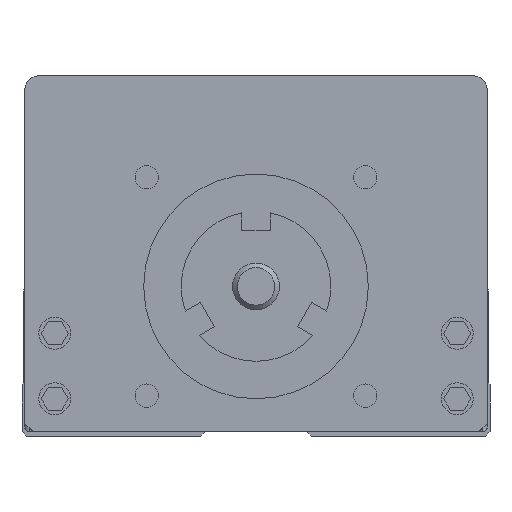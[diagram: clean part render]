
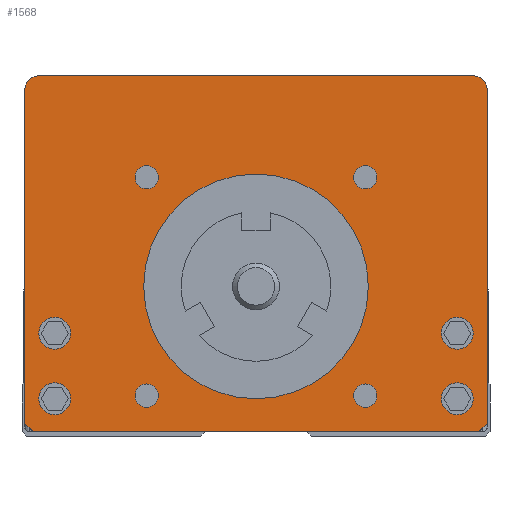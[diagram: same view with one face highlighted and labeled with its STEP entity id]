
A CAD part, front view. The second image highlights one B-rep face of the part: STEP entity #1568.
In plain terms, the highlighted planar face has unit normal (0, -1, 0).
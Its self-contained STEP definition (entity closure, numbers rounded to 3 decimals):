
#1568=ADVANCED_FACE('',(#4197,#4198,#4199,#4200,#4201,#4202,#4203,#4204,
#4205,#4206),#2045,.F.);
#2045=PLANE('',#11495);
#2415=LINE('',#15782,#3305);
#2452=LINE('',#15968,#3342);
#2466=LINE('',#16004,#3356);
#2642=LINE('',#17039,#3534);
#2651=LINE('',#17064,#3543);
#2652=LINE('',#17066,#3544);
#3305=VECTOR('',#12610,1.);
#3342=VECTOR('',#12801,1.);
#3356=VECTOR('',#12829,1.);
#3534=VECTOR('',#13567,1.);
#3543=VECTOR('',#13588,1.);
#3544=VECTOR('',#13591,1.);
#4197=FACE_BOUND('',#4713,.T.);
#4198=FACE_BOUND('',#4714,.T.);
#4199=FACE_BOUND('',#4715,.T.);
#4200=FACE_BOUND('',#4716,.T.);
#4201=FACE_BOUND('',#4717,.T.);
#4202=FACE_BOUND('',#4718,.T.);
#4203=FACE_BOUND('',#4719,.T.);
#4204=FACE_BOUND('',#4720,.T.);
#4205=FACE_BOUND('',#4721,.T.);
#4206=FACE_BOUND('',#4722,.T.);
#4713=EDGE_LOOP('',(#6461,#6462,#6463,#6464,#6465,#6466,#6467,#6468));
#4714=EDGE_LOOP('',(#6469));
#4715=EDGE_LOOP('',(#6470));
#4716=EDGE_LOOP('',(#6471));
#4717=EDGE_LOOP('',(#6472));
#4718=EDGE_LOOP('',(#6473));
#4719=EDGE_LOOP('',(#6474));
#4720=EDGE_LOOP('',(#6475));
#4721=EDGE_LOOP('',(#6476));
#4722=EDGE_LOOP('',(#6477));
#6461=ORIENTED_EDGE('',*,*,#9780,.F.);
#6462=ORIENTED_EDGE('',*,*,#9781,.F.);
#6463=ORIENTED_EDGE('',*,*,#9413,.F.);
#6464=ORIENTED_EDGE('',*,*,#9767,.F.);
#6465=ORIENTED_EDGE('',*,*,#9338,.F.);
#6466=ORIENTED_EDGE('',*,*,#9779,.F.);
#6467=ORIENTED_EDGE('',*,*,#9431,.F.);
#6468=ORIENTED_EDGE('',*,*,#9782,.F.);
#6469=ORIENTED_EDGE('',*,*,#9734,.F.);
#6470=ORIENTED_EDGE('',*,*,#9699,.F.);
#6471=ORIENTED_EDGE('',*,*,#9697,.F.);
#6472=ORIENTED_EDGE('',*,*,#9735,.F.);
#6473=ORIENTED_EDGE('',*,*,#9737,.F.);
#6474=ORIENTED_EDGE('',*,*,#9695,.F.);
#6475=ORIENTED_EDGE('',*,*,#9694,.F.);
#6476=ORIENTED_EDGE('',*,*,#9693,.F.);
#6477=ORIENTED_EDGE('',*,*,#9692,.F.);
#8249=VERTEX_POINT('',#15781);
#8250=VERTEX_POINT('',#15783);
#8317=VERTEX_POINT('',#15967);
#8318=VERTEX_POINT('',#15969);
#8332=VERTEX_POINT('',#16003);
#8333=VERTEX_POINT('',#16005);
#8509=VERTEX_POINT('',#16808);
#8510=VERTEX_POINT('',#16811);
#8511=VERTEX_POINT('',#16814);
#8512=VERTEX_POINT('',#16817);
#8514=VERTEX_POINT('',#16822);
#8516=VERTEX_POINT('',#16827);
#8535=VERTEX_POINT('',#16951);
#8536=VERTEX_POINT('',#16954);
#8538=VERTEX_POINT('',#16959);
#8559=VERTEX_POINT('',#17067);
#8560=VERTEX_POINT('',#17068);
#9338=EDGE_CURVE('',#8249,#8250,#2415,.T.);
#9413=EDGE_CURVE('',#8317,#8318,#2452,.T.);
#9431=EDGE_CURVE('',#8332,#8333,#2466,.T.);
#9692=EDGE_CURVE('',#8509,#8509,#10696,.T.);
#9693=EDGE_CURVE('',#8510,#8510,#10697,.T.);
#9694=EDGE_CURVE('',#8511,#8511,#10698,.T.);
#9695=EDGE_CURVE('',#8512,#8512,#10699,.T.);
#9697=EDGE_CURVE('',#8514,#8514,#10701,.T.);
#9699=EDGE_CURVE('',#8516,#8516,#10703,.T.);
#9734=EDGE_CURVE('',#8535,#8535,#10710,.T.);
#9735=EDGE_CURVE('',#8536,#8536,#10711,.T.);
#9737=EDGE_CURVE('',#8538,#8538,#10713,.T.);
#9767=EDGE_CURVE('',#8250,#8317,#2642,.T.);
#9779=EDGE_CURVE('',#8333,#8249,#2651,.T.);
#9780=EDGE_CURVE('',#8559,#8560,#2652,.T.);
#9781=EDGE_CURVE('',#8318,#8559,#10732,.T.);
#9782=EDGE_CURVE('',#8560,#8332,#10733,.T.);
#10696=CIRCLE('',#11416,1.25);
#10697=CIRCLE('',#11418,1.25);
#10698=CIRCLE('',#11420,1.25);
#10699=CIRCLE('',#11422,1.25);
#10701=CIRCLE('',#11425,1.7);
#10703=CIRCLE('',#11428,1.7);
#10710=CIRCLE('',#11450,12.);
#10711=CIRCLE('',#11452,1.7);
#10713=CIRCLE('',#11455,1.7);
#10732=CIRCLE('',#11493,1.5);
#10733=CIRCLE('',#11494,1.5);
#11416=AXIS2_PLACEMENT_3D('',#16807,#13393,#13394);
#11418=AXIS2_PLACEMENT_3D('',#16810,#13397,#13398);
#11420=AXIS2_PLACEMENT_3D('',#16813,#13401,#13402);
#11422=AXIS2_PLACEMENT_3D('',#16816,#13405,#13406);
#11425=AXIS2_PLACEMENT_3D('',#16821,#13411,#13412);
#11428=AXIS2_PLACEMENT_3D('',#16826,#13417,#13418);
#11450=AXIS2_PLACEMENT_3D('',#16950,#13486,#13487);
#11452=AXIS2_PLACEMENT_3D('',#16953,#13490,#13491);
#11455=AXIS2_PLACEMENT_3D('',#16958,#13496,#13497);
#11493=AXIS2_PLACEMENT_3D('',#17069,#13592,#13593);
#11494=AXIS2_PLACEMENT_3D('',#17070,#13594,#13595);
#11495=AXIS2_PLACEMENT_3D('',#17071,#13596,#13597);
#12610=DIRECTION('',(-1.,0.,0.));
#12801=DIRECTION('',(0.,0.,1.));
#12829=DIRECTION('',(0.,0.,-1.));
#13393=DIRECTION('',(0.,-1.,0.));
#13394=DIRECTION('',(1.,0.,0.));
#13397=DIRECTION('',(0.,-1.,0.));
#13398=DIRECTION('',(1.,0.,0.));
#13401=DIRECTION('',(0.,-1.,0.));
#13402=DIRECTION('',(1.,0.,0.));
#13405=DIRECTION('',(0.,-1.,0.));
#13406=DIRECTION('',(1.,0.,0.));
#13411=DIRECTION('',(0.,-1.,0.));
#13412=DIRECTION('',(1.,0.,0.));
#13417=DIRECTION('',(0.,-1.,0.));
#13418=DIRECTION('',(1.,0.,0.));
#13486=DIRECTION('',(0.,-1.,0.));
#13487=DIRECTION('',(1.,0.,0.));
#13490=DIRECTION('',(0.,-1.,0.));
#13491=DIRECTION('',(1.,0.,0.));
#13496=DIRECTION('',(0.,-1.,0.));
#13497=DIRECTION('',(1.,0.,0.));
#13567=DIRECTION('',(-0.707,0.,0.707));
#13588=DIRECTION('',(-0.707,0.,-0.707));
#13591=DIRECTION('',(1.,0.,0.));
#13592=DIRECTION('',(0.,1.,0.));
#13593=DIRECTION('',(-1.,0.,0.));
#13594=DIRECTION('',(0.,1.,0.));
#13595=DIRECTION('',(0.,0.,1.));
#13596=DIRECTION('',(0.,1.,0.));
#13597=DIRECTION('',(1.,0.,0.));
#15781=CARTESIAN_POINT('',(23.8,50.,0.));
#15782=CARTESIAN_POINT('',(23.8,50.,0.));
#15783=CARTESIAN_POINT('',(-23.8,50.,0.));
#15967=CARTESIAN_POINT('',(-24.7,50.,0.9));
#15968=CARTESIAN_POINT('',(-24.7,50.,0.9));
#15969=CARTESIAN_POINT('',(-24.7,50.,36.5));
#16003=CARTESIAN_POINT('',(24.7,50.,36.5));
#16004=CARTESIAN_POINT('',(24.7,50.,36.5));
#16005=CARTESIAN_POINT('',(24.7,50.,0.9));
#16807=CARTESIAN_POINT('',(-11.667,50.,27.167));
#16808=CARTESIAN_POINT('',(-10.417,50.,27.167));
#16810=CARTESIAN_POINT('',(-11.667,50.,3.833));
#16811=CARTESIAN_POINT('',(-10.417,50.,3.833));
#16813=CARTESIAN_POINT('',(11.667,50.,3.833));
#16814=CARTESIAN_POINT('',(12.917,50.,3.833));
#16816=CARTESIAN_POINT('',(11.667,50.,27.167));
#16817=CARTESIAN_POINT('',(12.917,50.,27.167));
#16821=CARTESIAN_POINT('',(21.5,50.,10.5));
#16822=CARTESIAN_POINT('',(23.2,50.,10.5));
#16826=CARTESIAN_POINT('',(21.5,50.,3.5));
#16827=CARTESIAN_POINT('',(23.2,50.,3.5));
#16950=CARTESIAN_POINT('',(0.,50.,15.5));
#16951=CARTESIAN_POINT('',(12.,50.,15.5));
#16953=CARTESIAN_POINT('',(-21.5,50.,10.5));
#16954=CARTESIAN_POINT('',(-19.8,50.,10.5));
#16958=CARTESIAN_POINT('',(-21.5,50.,3.5));
#16959=CARTESIAN_POINT('',(-19.8,50.,3.5));
#17039=CARTESIAN_POINT('',(-23.8,50.,0.));
#17064=CARTESIAN_POINT('',(24.7,50.,0.9));
#17066=CARTESIAN_POINT('',(-23.2,50.,38.));
#17067=CARTESIAN_POINT('',(-23.2,50.,38.));
#17068=CARTESIAN_POINT('',(23.2,50.,38.));
#17069=CARTESIAN_POINT('',(-23.2,50.,36.5));
#17070=CARTESIAN_POINT('',(23.2,50.,36.5));
#17071=CARTESIAN_POINT('',(0.,50.,19.));
